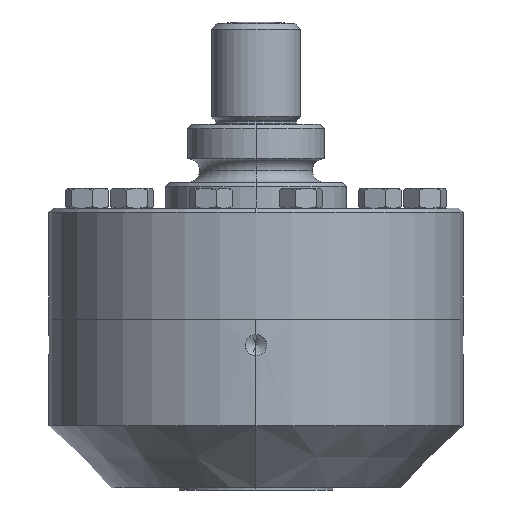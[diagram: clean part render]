
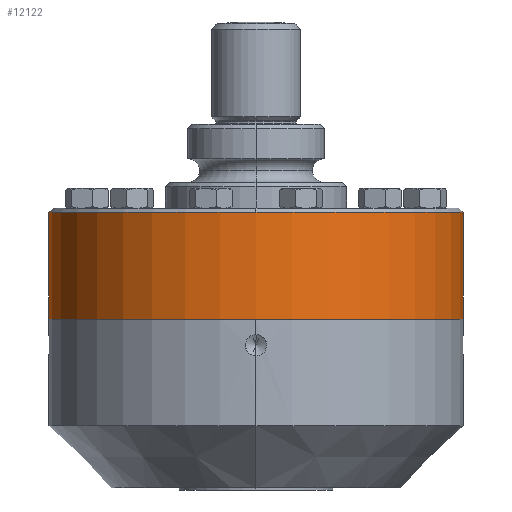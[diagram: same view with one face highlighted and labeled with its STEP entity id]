
A CAD part, left-side view. The second image highlights one B-rep face of the part: STEP entity #12122.
In plain terms, the highlighted cylindrical face has radius 76.975 mm (diameter 153.949 mm), a partial arc.
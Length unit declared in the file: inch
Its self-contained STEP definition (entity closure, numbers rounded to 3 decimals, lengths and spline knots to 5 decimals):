
#615 = CIRCLE ( 'NONE', #616, 3.0305 ) ;
#616 = AXIS2_PLACEMENT_3D ( 'NONE', #617, #618, #619 ) ;
#617 = CARTESIAN_POINT ( 'NONE',  ( 0., 0., 0. ) ) ;
#618 = DIRECTION ( 'NONE',  ( 0., 0., -1. ) ) ;
#619 = DIRECTION ( 'NONE',  ( 0., 1., 0. ) ) ;
#3714 = CARTESIAN_POINT ( 'NONE',  ( 0., 3.0305, 1.565 ) ) ;
#4617 = LINE ( 'NONE', #4622, #4623 ) ;
#4622 = CARTESIAN_POINT ( 'NONE',  ( 0., 3.0305, 1.565 ) ) ;
#4623 = VECTOR ( 'NONE', #4624, 39.37008 ) ;
#4624 = DIRECTION ( 'NONE',  ( 0., 0., -1. ) ) ;
#4779 = CIRCLE ( 'NONE', #4780, 3.0305 ) ;
#4780 = AXIS2_PLACEMENT_3D ( 'NONE', #4781, #4782, #4783 ) ;
#4781 = CARTESIAN_POINT ( 'NONE',  ( 0., 0., 1.565 ) ) ;
#4782 = DIRECTION ( 'NONE',  ( 0., 0., -1. ) ) ;
#4783 = DIRECTION ( 'NONE',  ( -1., 0., 0. ) ) ;
#5235 = CARTESIAN_POINT ( 'NONE',  ( 0., 3.0305, 0. ) ) ;
#5237 = EDGE_CURVE ( 'NONE', #12135, #11819, #615, .T. ) ;
#6114 = FACE_OUTER_BOUND ( 'NONE', #12058, .T. ) ;
#6115 = CYLINDRICAL_SURFACE ( 'NONE', #6116, 3.0305 ) ;
#6116 = AXIS2_PLACEMENT_3D ( 'NONE', #6117, #6118, #6119 ) ;
#6117 = CARTESIAN_POINT ( 'NONE',  ( 0., 0., 1.565 ) ) ;
#6118 = DIRECTION ( 'NONE',  ( 0., 0., -1. ) ) ;
#6119 = DIRECTION ( 'NONE',  ( 0., 1., 0. ) ) ;
#6142 = CARTESIAN_POINT ( 'NONE',  ( 0., -3.0305, 0. ) ) ;
#6336 = LINE ( 'NONE', #6337, #6338 ) ;
#6337 = CARTESIAN_POINT ( 'NONE',  ( 0., -3.0305, 1.565 ) ) ;
#6338 = VECTOR ( 'NONE', #6339, 39.37008 ) ;
#6339 = DIRECTION ( 'NONE',  ( 0., 0., -1. ) ) ;
#6364 = CARTESIAN_POINT ( 'NONE',  ( -3.0305, 0., 1.565 ) ) ;
#6527 = CIRCLE ( 'NONE', #6528, 3.0305 ) ;
#6528 = AXIS2_PLACEMENT_3D ( 'NONE', #6529, #6530, #6531 ) ;
#6529 = CARTESIAN_POINT ( 'NONE',  ( 0., 0., 1.565 ) ) ;
#6530 = DIRECTION ( 'NONE',  ( 0., 0., -1. ) ) ;
#6531 = DIRECTION ( 'NONE',  ( -1., 0., 0. ) ) ;
#6950 = CARTESIAN_POINT ( 'NONE',  ( 0., -3.0305, 1.565 ) ) ;
#10021 = VERTEX_POINT ( 'NONE', #3714 ) ;
#10105 = ORIENTED_EDGE ( 'NONE', *, *, #5237, .F. ) ;
#10691 = ORIENTED_EDGE ( 'NONE', *, *, #11532, .T. ) ;
#11279 = ORIENTED_EDGE ( 'NONE', *, *, #12270, .T. ) ;
#11532 = EDGE_CURVE ( 'NONE', #10021, #11819, #4617, .T. ) ;
#11649 = EDGE_CURVE ( 'NONE', #12438, #12212, #4779, .T. ) ;
#11753 = ORIENTED_EDGE ( 'NONE', *, *, #11649, .T. ) ;
#11819 = VERTEX_POINT ( 'NONE', #5235 ) ;
#11908 = ORIENTED_EDGE ( 'NONE', *, *, #12200, .F. ) ;
#12058 = EDGE_LOOP ( 'NONE', ( #11908, #11753, #11279, #10691, #10105 ) ) ;
#12122 = ADVANCED_FACE ( 'NONE', ( #6114 ), #6115, .T. ) ;
#12135 = VERTEX_POINT ( 'NONE', #6142 ) ;
#12200 = EDGE_CURVE ( 'NONE', #12438, #12135, #6336, .T. ) ;
#12212 = VERTEX_POINT ( 'NONE', #6364 ) ;
#12270 = EDGE_CURVE ( 'NONE', #12212, #10021, #6527, .T. ) ;
#12438 = VERTEX_POINT ( 'NONE', #6950 ) ;
